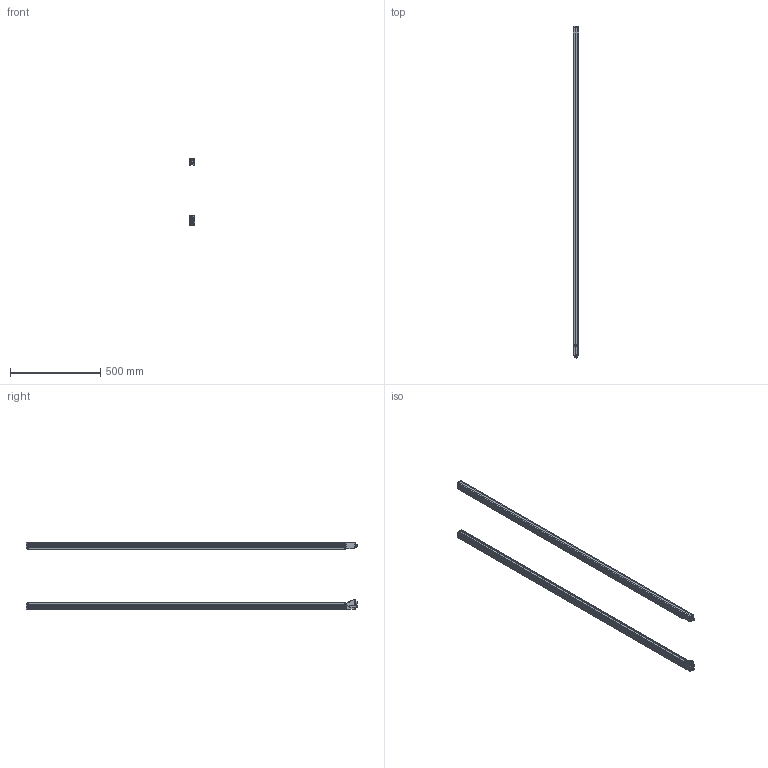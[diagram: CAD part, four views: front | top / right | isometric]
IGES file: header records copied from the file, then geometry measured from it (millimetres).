
Global section: file name: E:\sy\3DCAD_CML700_1760_A_EX.igs; native system: NX V8.5; preprocessor: SIEMENS PLM Software NX 8.5; date: 20161019.132443; units: millimetre
Bounding box: 30.65 x 1835.3 x 370.4 mm (x, y, z)
Surface area: 1402966.8 mm2 (no closed solid volume)
Topology: 0 solids, 0 shells, 1213 faces, 7388 edges, 7342 vertices
Faces by surface type: bspline 1213
